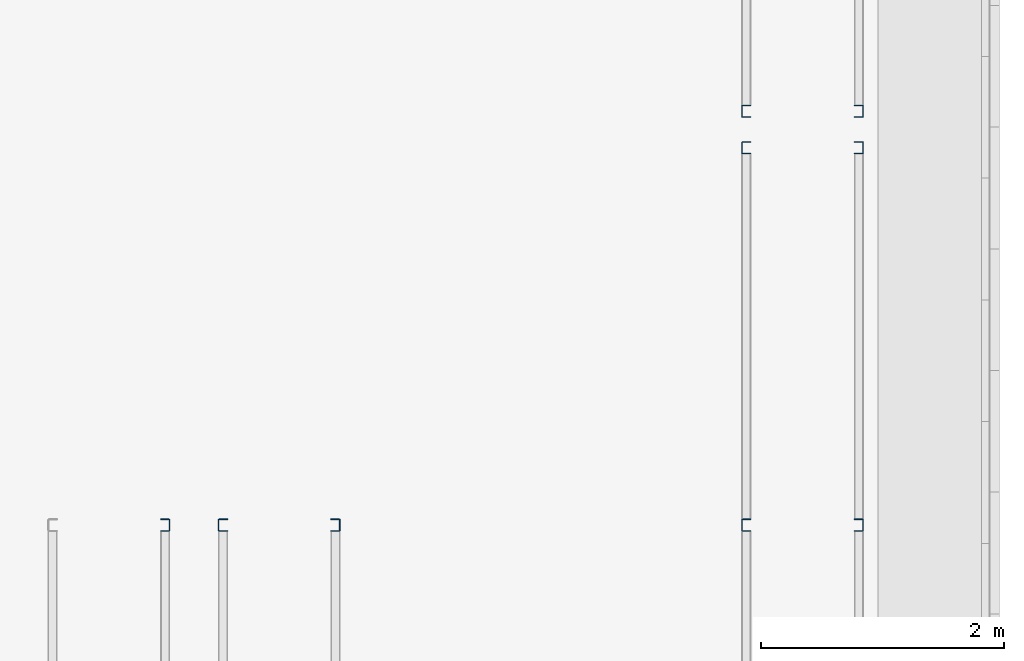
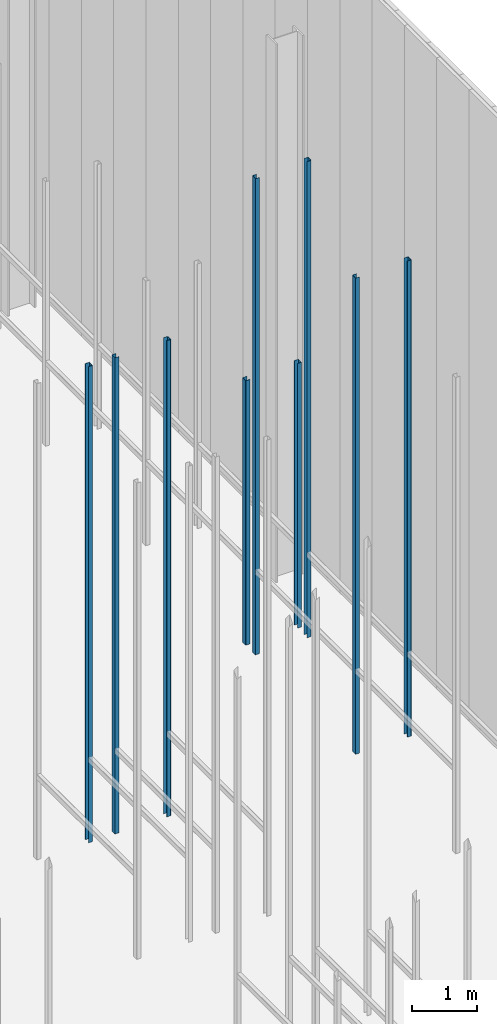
# One storey, part 39 of 302: 9 columns.
"""IFC2X3 building model written with IfcOpenShell, lengths in metres."""

from ifc_helpers import new_model, entity, si_unit, converted_unit, derived_unit, direction, frame, frame_2d, origin, place, context, subcontext, project, spatial, polyline, circle_curve, parameter, trimmed, segment, composite_curve, outline, extrude, source, transform, mapped, material, type_object, type_shapes, element, save


model = new_model("IFC2X3")

# Units and contexts
model_context = context("Model", 3, precision=1e-05, world=origin(), true_north=direction((6.12303176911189e-17, 1.0)))
body_context = subcontext(model_context, "Body", "Model", "MODEL_VIEW")
ifc_project = project(units=[si_unit("LENGTHUNIT", "METRE"), si_unit("AREAUNIT", "SQUARE_METRE"), si_unit("VOLUMEUNIT", "CUBIC_METRE"), converted_unit("PLANEANGLEUNIT", "DEGREE", entity("IfcRatioMeasure", 0.0174532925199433), si_unit("PLANEANGLEUNIT", "RADIAN"), dimensions=[0, 0, 0, 0, 0, 0, 0]), si_unit("MASSUNIT", "GRAM", prefix="KILO"), derived_unit("MASSDENSITYUNIT", [(si_unit("MASSUNIT", "GRAM", prefix="KILO"), 1), (si_unit("LENGTHUNIT", "METRE"), -3)]), derived_unit("MOMENTOFINERTIAUNIT", [(si_unit("LENGTHUNIT", "METRE"), 4)]), si_unit("TIMEUNIT", "SECOND"), si_unit("FREQUENCYUNIT", "HERTZ"), si_unit("THERMODYNAMICTEMPERATUREUNIT", "DEGREE_CELSIUS"), derived_unit("THERMALTRANSMITTANCEUNIT", [(si_unit("MASSUNIT", "GRAM", prefix="KILO"), 1), (si_unit("THERMODYNAMICTEMPERATUREUNIT", "KELVIN"), -1), (si_unit("TIMEUNIT", "SECOND"), -3)]), derived_unit("VOLUMETRICFLOWRATEUNIT", [(si_unit("LENGTHUNIT", "METRE"), 3), (si_unit("TIMEUNIT", "SECOND"), -1)]), si_unit("ELECTRICCURRENTUNIT", "AMPERE"), si_unit("ELECTRICVOLTAGEUNIT", "VOLT"), si_unit("POWERUNIT", "WATT"), si_unit("FORCEUNIT", "NEWTON", prefix="KILO"), si_unit("ILLUMINANCEUNIT", "LUX"), si_unit("LUMINOUSFLUXUNIT", "LUMEN"), si_unit("LUMINOUSINTENSITYUNIT", "CANDELA"), derived_unit("USERDEFINED", [(si_unit("MASSUNIT", "GRAM", prefix="KILO"), -1), (si_unit("LENGTHUNIT", "METRE"), -2), (si_unit("TIMEUNIT", "SECOND"), 3), (si_unit("LUMINOUSFLUXUNIT", "LUMEN"), 1)]), derived_unit("LINEARVELOCITYUNIT", [(si_unit("LENGTHUNIT", "METRE"), 1), (si_unit("TIMEUNIT", "SECOND"), -1)]), si_unit("PRESSUREUNIT", "PASCAL"), derived_unit("USERDEFINED", [(si_unit("LENGTHUNIT", "METRE"), -2), (si_unit("MASSUNIT", "GRAM", prefix="KILO"), 1), (si_unit("TIMEUNIT", "SECOND"), -2)]), derived_unit("LINEARFORCEUNIT", [(si_unit("MASSUNIT", "GRAM", prefix="KILO"), 1), (si_unit("LENGTHUNIT", "METRE"), 1), (si_unit("TIMEUNIT", "SECOND"), -2), (si_unit("LENGTHUNIT", "METRE"), -1)]), derived_unit("PLANARFORCEUNIT", [(si_unit("MASSUNIT", "GRAM", prefix="KILO"), 1), (si_unit("LENGTHUNIT", "METRE"), 1), (si_unit("TIMEUNIT", "SECOND"), -2), (si_unit("LENGTHUNIT", "METRE"), -2)])], contexts=[model_context])

# Site, building, storey
site_placement = place(None, origin())
site = spatial("IfcSite", under=ifc_project, at=site_placement, Name="Default", CompositionType="ELEMENT")
building_placement = place(site_placement, origin())
building = spatial("IfcBuilding", under=site, at=building_placement, CompositionType="ELEMENT")
storey_placement = place(building_placement, frame((0.0, 0.0, -1.3)))
storey = spatial("IfcBuildingStorey", under=building, at=storey_placement, Name="00_EG", CompositionType="ELEMENT", Elevation=-1.3)

# Columns
ifc_material = material(Name="Metall - Baustahl S235")
column_type_1 = type_object("IfcColumnType", Name="Leichter Stahl Schlossschrauben Stütze:C 100", PredefinedType="COLUMN", material=ifc_material)
shared_shape_1 = source(origin(), body_context, "Body", "SweptSolid", [
    extrude(outline(composite_curve([segment(polyline([(-0.0469749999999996, -0.0499999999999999), (0.0214500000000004, -0.0499999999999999)]), True, "CONTINUOUS"), segment(trimmed(circle_curve(frame_2d((0.0214500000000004, -0.0434249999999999), x_axis=(0.0, -1.0)), 0.00657500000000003), [parameter(0.0)], [parameter(89.9999999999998)], True, "PARAMETER"), True, "CONTINUOUS"), segment(polyline([(0.0280250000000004, -0.0434249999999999), (0.0280250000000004, 0.0434250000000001)]), True, "CONTINUOUS"), segment(trimmed(circle_curve(frame_2d((0.0214500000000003, 0.0434250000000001), x_axis=(1.0, 0.0)), 0.0065750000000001), [parameter(0.0)], [parameter(89.9999999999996)], True, "PARAMETER"), True, "CONTINUOUS"), segment(polyline([(0.0214500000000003, 0.0500000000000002), (-0.0469750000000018, 0.0500000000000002)]), True, "CONTINUOUS"), segment(polyline([(-0.0469750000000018, 0.0500000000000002), (-0.0469750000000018, 0.0450000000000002)]), True, "CONTINUOUS"), segment(polyline([(-0.0469750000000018, 0.0450000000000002), (0.0214500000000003, 0.0450000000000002)]), True, "CONTINUOUS"), segment(trimmed(circle_curve(frame_2d((0.0214500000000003, 0.0434249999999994), x_axis=(0.0, 1.0)), 0.00157500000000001), [parameter(269.999999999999)], [parameter(0.0)], True, "PARAMETER"), False, "CONTINUOUS"), segment(polyline([(0.0230250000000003, 0.0434249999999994), (0.0230250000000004, -0.0434249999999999)]), True, "CONTINUOUS"), segment(trimmed(circle_curve(frame_2d((0.0214500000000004, -0.0434249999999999), x_axis=(1.0, 0.0)), 0.00157500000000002), [parameter(270.0)], [parameter(0.0)], True, "PARAMETER"), False, "CONTINUOUS"), segment(polyline([(0.0214500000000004, -0.0449999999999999), (-0.0469749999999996, -0.0449999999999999)]), True, "CONTINUOUS"), segment(polyline([(-0.0469749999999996, -0.0449999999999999), (-0.0469749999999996, -0.0499999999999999)]), True, "CONTINUOUS")], self_intersect=False)), frame((0.0499999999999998, 0.0280250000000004, -0.0300000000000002), z_axis=(0.0, 0.0, 1.0), x_axis=(0.0, -1.0, 0.0)), (0.0, 0.0, 1.0), 9.0),
])
type_shapes(column_type_1, [shared_shape_1])
for number, where, z_axis, x_axis in (
    (1, (-183.690111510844, 51.948088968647, 1.3), (0.0, 0.0, 1.0), (0.0, -1.0, 0.0)),
    (2, (-179.390111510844, 51.948088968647, 1.3), (0.0, 0.0, 1.0), (0.0, -1.0, 0.0)),
    (3, (-179.390111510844, 55.048088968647, 1.3), (0.0, 0.0, 1.0), (0.0, -1.0, 0.0)),
):
    element("IfcColumn", number, at=place(storey_placement, frame(where, z_axis=z_axis, x_axis=x_axis)), inside=storey, type_object=column_type_1, material=ifc_material, Name="Leichter Stahl Schlossschrauben Stütze:C 100", ObjectType="Leichter Stahl Schlossschrauben Stütze:C 100", context=body_context, shape_type="MappedRepresentation", body=[
        mapped(shared_shape_1, transform((0.0, 0.0, 0.0), scale=1.0)),
    ])
column_type_2 = type_object("IfcColumnType", Name="Leichter Stahl Schlossschrauben Stütze:C 100", PredefinedType="COLUMN", material=ifc_material)
shared_shape_2 = source(origin(), body_context, "Body", "SweptSolid", [
    extrude(outline(composite_curve([segment(polyline([(-0.0214500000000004, -0.0499999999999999), (0.0469749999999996, -0.0499999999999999)]), True, "CONTINUOUS"), segment(polyline([(0.0469749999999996, -0.0499999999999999), (0.0469749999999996, -0.0449999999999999)]), True, "CONTINUOUS"), segment(polyline([(0.0469749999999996, -0.0449999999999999), (-0.0214500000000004, -0.045)]), True, "CONTINUOUS"), segment(trimmed(circle_curve(frame_2d((-0.0214500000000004, -0.043425), x_axis=(0.0, -1.0)), 0.00157500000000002), [parameter(270.0)], [parameter(0.0)], True, "PARAMETER"), False, "CONTINUOUS"), segment(polyline([(-0.0230250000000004, -0.0434249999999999), (-0.0230250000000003, 0.0434249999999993)]), True, "CONTINUOUS"), segment(trimmed(circle_curve(frame_2d((-0.0214500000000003, 0.0434249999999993), x_axis=(-1.0, 0.0)), 0.00157500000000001), [parameter(269.999999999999)], [parameter(0.0)], True, "PARAMETER"), False, "CONTINUOUS"), segment(polyline([(-0.0214500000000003, 0.0450000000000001), (0.0469750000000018, 0.0450000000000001)]), True, "CONTINUOUS"), segment(polyline([(0.0469750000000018, 0.0450000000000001), (0.0469750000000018, 0.0500000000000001)]), True, "CONTINUOUS"), segment(polyline([(0.0469750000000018, 0.0500000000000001), (-0.0214500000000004, 0.0500000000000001)]), True, "CONTINUOUS"), segment(trimmed(circle_curve(frame_2d((-0.0214500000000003, 0.043425), x_axis=(0.0, 1.0)), 0.0065750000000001), [parameter(0.0)], [parameter(89.9999999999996)], True, "PARAMETER"), True, "CONTINUOUS"), segment(polyline([(-0.0280250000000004, 0.043425), (-0.0280250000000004, -0.043425)]), True, "CONTINUOUS"), segment(trimmed(circle_curve(frame_2d((-0.0214500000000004, -0.0434249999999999), x_axis=(-1.0, 0.0)), 0.00657500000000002), [parameter(0.0)], [parameter(89.9999999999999)], True, "PARAMETER"), True, "CONTINUOUS")], self_intersect=False)), frame((0.0499999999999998, -0.0280250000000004, -0.0300000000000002), z_axis=(0.0, 0.0, 1.0), x_axis=(0.0, -1.0, 0.0)), (0.0, 0.0, 1.0), 9.0),
])
type_shapes(column_type_2, [shared_shape_2])
for number, where, z_axis, x_axis in (
    (4, (-184.090111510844, 51.948088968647, 1.3), (0.0, 0.0, 1.0), (0.0, -1.0, 0.0)),
    (5, (-182.690111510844, 51.948088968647, 1.3), (0.0, 0.0, 1.0), (0.0, -1.0, 0.0)),
    (6, (-178.390111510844, 51.948088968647, 1.3), (0.0, 0.0, 1.0), (0.0, -1.0, 0.0)),
    (7, (-178.390111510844, 55.048088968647, 1.3), (0.0, 0.0, 1.0), (0.0, -1.0, 0.0)),
):
    element("IfcColumn", number, at=place(storey_placement, frame(where, z_axis=z_axis, x_axis=x_axis)), inside=storey, type_object=column_type_2, material=ifc_material, Name="Leichter Stahl Schlossschrauben Stütze:C 100", ObjectType="Leichter Stahl Schlossschrauben Stütze:C 100", context=body_context, shape_type="MappedRepresentation", body=[
        mapped(shared_shape_2, transform((0.0, 0.0, 0.0), scale=1.0)),
    ])
column_type_3 = type_object("IfcColumnType", Name="Leichter Stahl Schlossschrauben Stütze:C 100", PredefinedType="COLUMN", material=ifc_material)
shared_shape_3 = source(origin(), body_context, "Body", "SweptSolid", [
    extrude(outline(composite_curve([segment(polyline([(-0.0469749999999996, -0.0499999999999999), (0.0214500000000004, -0.0499999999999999)]), True, "CONTINUOUS"), segment(trimmed(circle_curve(frame_2d((0.0214500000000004, -0.0434249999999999), x_axis=(0.0, -1.0)), 0.00657500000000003), [parameter(0.0)], [parameter(89.9999999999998)], True, "PARAMETER"), True, "CONTINUOUS"), segment(polyline([(0.0280250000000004, -0.0434249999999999), (0.0280250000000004, 0.0434250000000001)]), True, "CONTINUOUS"), segment(trimmed(circle_curve(frame_2d((0.0214500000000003, 0.0434250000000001), x_axis=(1.0, 0.0)), 0.0065750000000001), [parameter(0.0)], [parameter(89.9999999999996)], True, "PARAMETER"), True, "CONTINUOUS"), segment(polyline([(0.0214500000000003, 0.0500000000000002), (-0.0469750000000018, 0.0500000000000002)]), True, "CONTINUOUS"), segment(polyline([(-0.0469750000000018, 0.0500000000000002), (-0.0469750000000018, 0.0450000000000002)]), True, "CONTINUOUS"), segment(polyline([(-0.0469750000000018, 0.0450000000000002), (0.0214500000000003, 0.0450000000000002)]), True, "CONTINUOUS"), segment(trimmed(circle_curve(frame_2d((0.0214500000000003, 0.0434249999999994), x_axis=(0.0, 1.0)), 0.00157500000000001), [parameter(269.999999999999)], [parameter(0.0)], True, "PARAMETER"), False, "CONTINUOUS"), segment(polyline([(0.0230250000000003, 0.0434249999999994), (0.0230250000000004, -0.0434249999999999)]), True, "CONTINUOUS"), segment(trimmed(circle_curve(frame_2d((0.0214500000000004, -0.0434249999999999), x_axis=(1.0, 0.0)), 0.00157500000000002), [parameter(270.0)], [parameter(0.0)], True, "PARAMETER"), False, "CONTINUOUS"), segment(polyline([(0.0214500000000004, -0.0449999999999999), (-0.0469749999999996, -0.0449999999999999)]), True, "CONTINUOUS"), segment(polyline([(-0.0469749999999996, -0.0449999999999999), (-0.0469749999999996, -0.0499999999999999)]), True, "CONTINUOUS")], self_intersect=False)), frame((0.0499999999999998, 0.0280250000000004, -0.0300000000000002), z_axis=(0.0, 0.0, 1.0), x_axis=(0.0, -1.0, 0.0)), (0.0, 0.0, 1.0), 5.0),
])
type_shapes(column_type_3, [shared_shape_3])
column_1_placement = place(storey_placement, frame((-179.390111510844, 55.348088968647, 1.3), z_axis=(0.0, 0.0, 1.0), x_axis=(0.0, -1.0, 0.0)))
element("IfcColumn", 8, at=column_1_placement, inside=storey, type_object=column_type_3, material=ifc_material, Name="Leichter Stahl Schlossschrauben Stütze:C 100", ObjectType="Leichter Stahl Schlossschrauben Stütze:C 100", context=body_context, shape_type="MappedRepresentation", body=[
    mapped(shared_shape_3, transform((0.0, 0.0, 0.0), scale=1.0)),
])
column_type_4 = type_object("IfcColumnType", Name="Leichter Stahl Schlossschrauben Stütze:C 100", PredefinedType="COLUMN", material=ifc_material)
shared_shape_4 = source(origin(), body_context, "Body", "SweptSolid", [
    extrude(outline(composite_curve([segment(polyline([(-0.0214500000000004, -0.0499999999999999), (0.0469749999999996, -0.0499999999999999)]), True, "CONTINUOUS"), segment(polyline([(0.0469749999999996, -0.0499999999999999), (0.0469749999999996, -0.0449999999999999)]), True, "CONTINUOUS"), segment(polyline([(0.0469749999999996, -0.0449999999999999), (-0.0214500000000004, -0.045)]), True, "CONTINUOUS"), segment(trimmed(circle_curve(frame_2d((-0.0214500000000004, -0.043425), x_axis=(0.0, -1.0)), 0.00157500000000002), [parameter(270.0)], [parameter(0.0)], True, "PARAMETER"), False, "CONTINUOUS"), segment(polyline([(-0.0230250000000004, -0.0434249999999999), (-0.0230250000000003, 0.0434249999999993)]), True, "CONTINUOUS"), segment(trimmed(circle_curve(frame_2d((-0.0214500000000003, 0.0434249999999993), x_axis=(-1.0, 0.0)), 0.00157500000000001), [parameter(269.999999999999)], [parameter(0.0)], True, "PARAMETER"), False, "CONTINUOUS"), segment(polyline([(-0.0214500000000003, 0.0450000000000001), (0.0469750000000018, 0.0450000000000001)]), True, "CONTINUOUS"), segment(polyline([(0.0469750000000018, 0.0450000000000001), (0.0469750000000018, 0.0500000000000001)]), True, "CONTINUOUS"), segment(polyline([(0.0469750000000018, 0.0500000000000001), (-0.0214500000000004, 0.0500000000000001)]), True, "CONTINUOUS"), segment(trimmed(circle_curve(frame_2d((-0.0214500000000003, 0.043425), x_axis=(0.0, 1.0)), 0.0065750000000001), [parameter(0.0)], [parameter(89.9999999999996)], True, "PARAMETER"), True, "CONTINUOUS"), segment(polyline([(-0.0280250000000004, 0.043425), (-0.0280250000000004, -0.043425)]), True, "CONTINUOUS"), segment(trimmed(circle_curve(frame_2d((-0.0214500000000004, -0.0434249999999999), x_axis=(-1.0, 0.0)), 0.00657500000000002), [parameter(0.0)], [parameter(89.9999999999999)], True, "PARAMETER"), True, "CONTINUOUS")], self_intersect=False)), frame((0.0499999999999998, -0.0280250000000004, -0.0300000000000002), z_axis=(0.0, 0.0, 1.0), x_axis=(0.0, -1.0, 0.0)), (0.0, 0.0, 1.0), 5.0),
])
type_shapes(column_type_4, [shared_shape_4])
column_2_placement = place(storey_placement, frame((-178.390111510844, 55.348088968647, 1.3), z_axis=(0.0, 0.0, 1.0), x_axis=(0.0, -1.0, 0.0)))
element("IfcColumn", 9, at=column_2_placement, inside=storey, type_object=column_type_4, material=ifc_material, Name="Leichter Stahl Schlossschrauben Stütze:C 100", ObjectType="Leichter Stahl Schlossschrauben Stütze:C 100", context=body_context, shape_type="MappedRepresentation", body=[
    mapped(shared_shape_4, transform((0.0, 0.0, 0.0), scale=1.0)),
])

save(model, "model.ifc")
